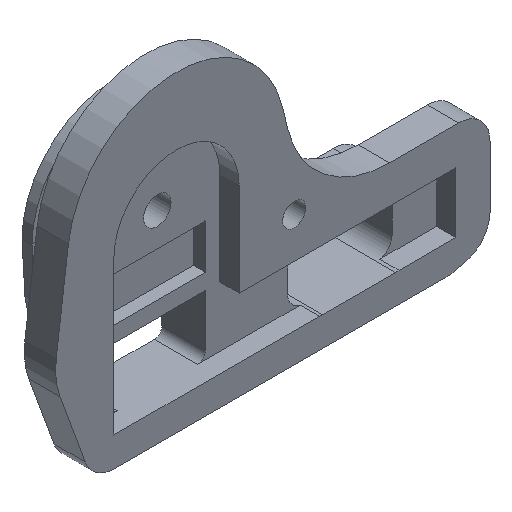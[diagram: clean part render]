
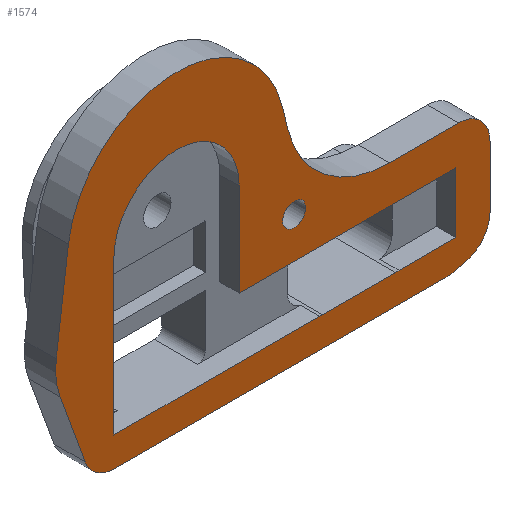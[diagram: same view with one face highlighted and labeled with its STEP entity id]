
A CAD part, isometric view. The second image highlights one B-rep face of the part: STEP entity #1574.
In plain terms, the highlighted planar face has unit normal (0, -1, 0).
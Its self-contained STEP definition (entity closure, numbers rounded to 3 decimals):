
#73=FACE_BOUND('',#191,.T.);
#74=FACE_BOUND('',#192,.T.);
#94=FACE_OUTER_BOUND('',#190,.T.);
#190=EDGE_LOOP('',(#1119,#1120,#1121,#1122,#1123,#1124,#1125,#1126,#1127,
#1128,#1129,#1130,#1131,#1132));
#191=EDGE_LOOP('',(#1133,#1134,#1135,#1136,#1137,#1138,#1139,#1140,#1141,
#1142));
#192=EDGE_LOOP('',(#1143));
#287=LINE('',#2398,#429);
#293=LINE('',#2409,#435);
#307=LINE('',#2450,#449);
#310=LINE('',#2457,#452);
#311=LINE('',#2460,#453);
#317=LINE('',#2470,#459);
#322=LINE('',#2497,#464);
#323=LINE('',#2501,#465);
#324=LINE('',#2505,#466);
#325=LINE('',#2509,#467);
#326=LINE('',#2513,#468);
#327=LINE('',#2517,#469);
#328=LINE('',#2520,#470);
#329=LINE('',#2525,#471);
#429=VECTOR('',#1874,10.);
#435=VECTOR('',#1882,10.);
#449=VECTOR('',#1912,10.);
#452=VECTOR('',#1921,10.);
#453=VECTOR('',#1924,10.);
#459=VECTOR('',#1932,10.);
#464=VECTOR('',#1959,10.);
#465=VECTOR('',#1962,10.);
#466=VECTOR('',#1965,10.);
#467=VECTOR('',#1968,10.);
#468=VECTOR('',#1971,10.);
#469=VECTOR('',#1974,10.);
#470=VECTOR('',#1977,10.);
#471=VECTOR('',#1982,10.);
#573=CIRCLE('',#1684,6.);
#580=CIRCLE('',#1698,3.);
#581=CIRCLE('',#1699,10.);
#582=CIRCLE('',#1700,10.45);
#583=CIRCLE('',#1701,7.);
#584=CIRCLE('',#1702,3.);
#585=CIRCLE('',#1703,4.);
#586=CIRCLE('',#1704,3.);
#587=CIRCLE('',#1705,1.5);
#588=CIRCLE('',#1706,1.5);
#589=CIRCLE('',#1707,1.1);
#666=VERTEX_POINT('',#2395);
#667=VERTEX_POINT('',#2397);
#671=VERTEX_POINT('',#2407);
#689=VERTEX_POINT('',#2447);
#690=VERTEX_POINT('',#2449);
#691=VERTEX_POINT('',#2453);
#692=VERTEX_POINT('',#2459);
#695=VERTEX_POINT('',#2468);
#704=VERTEX_POINT('',#2493);
#705=VERTEX_POINT('',#2494);
#706=VERTEX_POINT('',#2496);
#707=VERTEX_POINT('',#2498);
#708=VERTEX_POINT('',#2500);
#709=VERTEX_POINT('',#2502);
#710=VERTEX_POINT('',#2504);
#711=VERTEX_POINT('',#2506);
#712=VERTEX_POINT('',#2508);
#713=VERTEX_POINT('',#2510);
#714=VERTEX_POINT('',#2512);
#715=VERTEX_POINT('',#2514);
#716=VERTEX_POINT('',#2516);
#717=VERTEX_POINT('',#2518);
#718=VERTEX_POINT('',#2521);
#719=VERTEX_POINT('',#2523);
#720=VERTEX_POINT('',#2526);
#816=EDGE_CURVE('',#667,#666,#287,.T.);
#822=EDGE_CURVE('',#666,#671,#293,.T.);
#842=EDGE_CURVE('',#690,#689,#307,.T.);
#845=EDGE_CURVE('',#689,#691,#573,.T.);
#846=EDGE_CURVE('',#691,#667,#310,.T.);
#847=EDGE_CURVE('',#692,#690,#311,.T.);
#853=EDGE_CURVE('',#671,#695,#317,.T.);
#864=EDGE_CURVE('',#704,#705,#580,.T.);
#865=EDGE_CURVE('',#704,#706,#322,.F.);
#866=EDGE_CURVE('',#707,#706,#581,.T.);
#867=EDGE_CURVE('',#707,#708,#323,.T.);
#868=EDGE_CURVE('',#708,#709,#582,.T.);
#869=EDGE_CURVE('',#709,#710,#324,.T.);
#870=EDGE_CURVE('',#711,#710,#583,.T.);
#871=EDGE_CURVE('',#711,#712,#325,.T.);
#872=EDGE_CURVE('',#713,#712,#584,.T.);
#873=EDGE_CURVE('',#714,#713,#326,.T.);
#874=EDGE_CURVE('',#715,#714,#585,.T.);
#875=EDGE_CURVE('',#715,#716,#327,.T.);
#876=EDGE_CURVE('',#716,#717,#586,.T.);
#877=EDGE_CURVE('',#717,#705,#328,.T.);
#878=EDGE_CURVE('',#692,#718,#587,.T.);
#879=EDGE_CURVE('',#719,#695,#588,.T.);
#880=EDGE_CURVE('',#718,#719,#329,.T.);
#881=EDGE_CURVE('',#720,#720,#589,.T.);
#1119=ORIENTED_EDGE('',*,*,#864,.F.);
#1120=ORIENTED_EDGE('',*,*,#865,.T.);
#1121=ORIENTED_EDGE('',*,*,#866,.F.);
#1122=ORIENTED_EDGE('',*,*,#867,.T.);
#1123=ORIENTED_EDGE('',*,*,#868,.T.);
#1124=ORIENTED_EDGE('',*,*,#869,.T.);
#1125=ORIENTED_EDGE('',*,*,#870,.F.);
#1126=ORIENTED_EDGE('',*,*,#871,.T.);
#1127=ORIENTED_EDGE('',*,*,#872,.F.);
#1128=ORIENTED_EDGE('',*,*,#873,.F.);
#1129=ORIENTED_EDGE('',*,*,#874,.F.);
#1130=ORIENTED_EDGE('',*,*,#875,.T.);
#1131=ORIENTED_EDGE('',*,*,#876,.T.);
#1132=ORIENTED_EDGE('',*,*,#877,.T.);
#1133=ORIENTED_EDGE('',*,*,#878,.F.);
#1134=ORIENTED_EDGE('',*,*,#847,.T.);
#1135=ORIENTED_EDGE('',*,*,#842,.T.);
#1136=ORIENTED_EDGE('',*,*,#845,.T.);
#1137=ORIENTED_EDGE('',*,*,#846,.T.);
#1138=ORIENTED_EDGE('',*,*,#816,.T.);
#1139=ORIENTED_EDGE('',*,*,#822,.T.);
#1140=ORIENTED_EDGE('',*,*,#853,.T.);
#1141=ORIENTED_EDGE('',*,*,#879,.F.);
#1142=ORIENTED_EDGE('',*,*,#880,.F.);
#1143=ORIENTED_EDGE('',*,*,#881,.T.);
#1530=PLANE('',#1697);
#1574=ADVANCED_FACE('',(#94,#73,#74),#1530,.T.);
#1684=AXIS2_PLACEMENT_3D('',#2455,#1917,#1918);
#1697=AXIS2_PLACEMENT_3D('',#2492,#1955,#1956);
#1698=AXIS2_PLACEMENT_3D('',#2495,#1957,#1958);
#1699=AXIS2_PLACEMENT_3D('',#2499,#1960,#1961);
#1700=AXIS2_PLACEMENT_3D('',#2503,#1963,#1964);
#1701=AXIS2_PLACEMENT_3D('',#2507,#1966,#1967);
#1702=AXIS2_PLACEMENT_3D('',#2511,#1969,#1970);
#1703=AXIS2_PLACEMENT_3D('',#2515,#1972,#1973);
#1704=AXIS2_PLACEMENT_3D('',#2519,#1975,#1976);
#1705=AXIS2_PLACEMENT_3D('',#2522,#1978,#1979);
#1706=AXIS2_PLACEMENT_3D('',#2524,#1980,#1981);
#1707=AXIS2_PLACEMENT_3D('',#2527,#1983,#1984);
#1874=DIRECTION('',(1.,0.,0.));
#1882=DIRECTION('',(0.,0.,-1.));
#1912=DIRECTION('',(0.,0.,1.));
#1917=DIRECTION('center_axis',(0.,1.,0.));
#1918=DIRECTION('ref_axis',(-1.,0.,0.));
#1921=DIRECTION('',(0.,0.,-1.));
#1924=DIRECTION('',(-1.,0.,0.));
#1932=DIRECTION('',(-1.,0.,0.));
#1955=DIRECTION('center_axis',(0.,-1.,0.));
#1956=DIRECTION('ref_axis',(-1.,0.,0.));
#1957=DIRECTION('center_axis',(0.,1.,0.));
#1958=DIRECTION('ref_axis',(0.707,0.,0.707));
#1959=DIRECTION('',(1.,0.,0.));
#1960=DIRECTION('center_axis',(0.,-1.,0.));
#1961=DIRECTION('ref_axis',(-0.619,0.,-0.786));
#1962=DIRECTION('',(-0.235,0.,0.972));
#1963=DIRECTION('center_axis',(0.,-1.,0.));
#1964=DIRECTION('ref_axis',(0.972,0.,0.235));
#1965=DIRECTION('',(-0.129,0.,-0.992));
#1966=DIRECTION('center_axis',(0.,1.,0.));
#1967=DIRECTION('ref_axis',(-0.994,0.,-0.109));
#1968=DIRECTION('',(0.342,0.,-0.94));
#1969=DIRECTION('center_axis',(0.,1.,0.));
#1970=DIRECTION('ref_axis',(-0.574,0.,-0.819));
#1971=DIRECTION('',(-1.,0.,0.));
#1972=DIRECTION('center_axis',(0.,1.,0.));
#1973=DIRECTION('ref_axis',(0.131,0.,-0.991));
#1974=DIRECTION('',(0.966,0.,0.259));
#1975=DIRECTION('center_axis',(0.,-1.,0.));
#1976=DIRECTION('ref_axis',(0.259,0.,-0.966));
#1977=DIRECTION('',(0.,0.,1.));
#1978=DIRECTION('center_axis',(0.,-1.,0.));
#1979=DIRECTION('ref_axis',(-1.,0.,0.));
#1980=DIRECTION('center_axis',(0.,-1.,0.));
#1981=DIRECTION('ref_axis',(0.,0.,-1.));
#1982=DIRECTION('',(1.,0.,0.));
#1983=DIRECTION('center_axis',(0.,1.,0.));
#1984=DIRECTION('ref_axis',(-1.,0.,0.));
#2395=CARTESIAN_POINT('',(38.5,-5.,3.6));
#2397=CARTESIAN_POINT('',(17.741,-5.,3.6));
#2398=CARTESIAN_POINT('',(33.31,-5.,3.6));
#2407=CARTESIAN_POINT('',(38.5,-5.,-2.167));
#2409=CARTESIAN_POINT('',(38.5,-5.,2.471));
#2447=CARTESIAN_POINT('',(5.741,-5.,12.483));
#2449=CARTESIAN_POINT('',(5.741,-5.,-2.167));
#2450=CARTESIAN_POINT('',(5.741,-5.,8.296));
#2453=CARTESIAN_POINT('',(17.741,-5.,12.483));
#2455=CARTESIAN_POINT('Origin',(11.741,-5.,12.483));
#2457=CARTESIAN_POINT('',(17.741,-5.,3.7));
#2459=CARTESIAN_POINT('',(25.429,-5.,-2.167));
#2460=CARTESIAN_POINT('',(13.931,-5.,-2.167));
#2468=CARTESIAN_POINT('',(33.053,-5.,-2.167));
#2470=CARTESIAN_POINT('',(13.931,-5.,-2.167));
#2492=CARTESIAN_POINT('Origin',(26.325,-5.,8.441));
#2493=CARTESIAN_POINT('',(38.762,-5.,7.2));
#2494=CARTESIAN_POINT('',(41.762,-5.,4.2));
#2495=CARTESIAN_POINT('Origin',(38.762,-5.,4.2));
#2496=CARTESIAN_POINT('',(32.13,-5.,7.2));
#2497=CARTESIAN_POINT('',(26.533,-5.,7.2));
#2498=CARTESIAN_POINT('',(22.41,-5.,14.852));
#2499=CARTESIAN_POINT('Origin',(32.13,-5.,17.2));
#2500=CARTESIAN_POINT('',(21.907,-5.,16.934));
#2501=CARTESIAN_POINT('',(24.741,-5.,5.2));
#2502=CARTESIAN_POINT('',(1.387,-5.,15.832));
#2503=CARTESIAN_POINT('Origin',(11.749,-5.,14.48));
#2504=CARTESIAN_POINT('',(0.221,-5.,6.894));
#2505=CARTESIAN_POINT('',(1.387,-5.,15.832));
#2506=CARTESIAN_POINT('',(0.584,-5.,3.595));
#2507=CARTESIAN_POINT('Origin',(7.162,-5.,5.989));
#2508=CARTESIAN_POINT('',(2.994,-5.,-3.026));
#2509=CARTESIAN_POINT('',(1.019,-5.,2.401));
#2510=CARTESIAN_POINT('',(5.813,-5.,-5.));
#2511=CARTESIAN_POINT('Origin',(5.813,-5.,-2.));
#2512=CARTESIAN_POINT('',(37.53,-5.,-5.));
#2513=CARTESIAN_POINT('',(13.163,-5.,-5.));
#2514=CARTESIAN_POINT('',(38.566,-5.,-4.864));
#2515=CARTESIAN_POINT('Origin',(37.53,-5.,-1.));
#2516=CARTESIAN_POINT('',(39.539,-5.,-4.603));
#2517=CARTESIAN_POINT('',(34.264,-5.,-6.016));
#2518=CARTESIAN_POINT('',(41.762,-5.,-1.705));
#2519=CARTESIAN_POINT('Origin',(38.762,-5.,-1.705));
#2520=CARTESIAN_POINT('',(41.762,-5.,3.368));
#2521=CARTESIAN_POINT('',(25.741,-5.,-2.2));
#2522=CARTESIAN_POINT('Origin',(25.741,-5.,-0.7));
#2523=CARTESIAN_POINT('',(32.741,-5.,-2.2));
#2524=CARTESIAN_POINT('Origin',(32.741,-5.,-0.7));
#2525=CARTESIAN_POINT('',(29.533,-5.,-2.2));
#2526=CARTESIAN_POINT('',(24.112,-5.,7.5));
#2527=CARTESIAN_POINT('Origin',(23.012,-5.,7.5));
